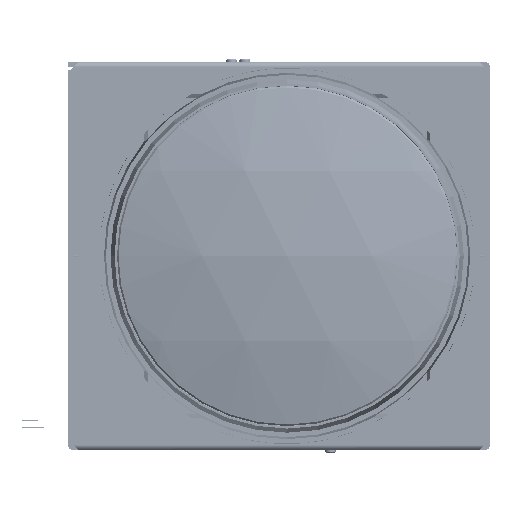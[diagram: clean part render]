
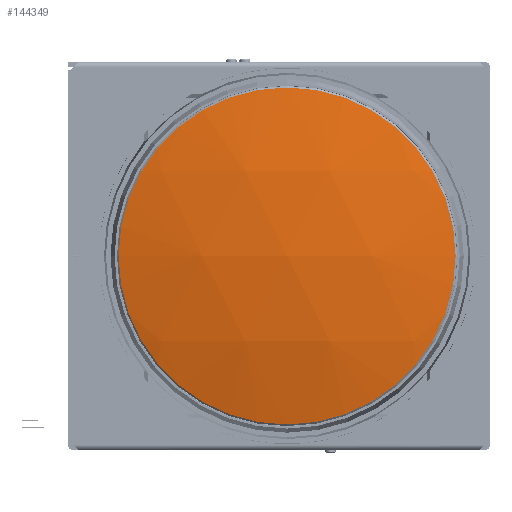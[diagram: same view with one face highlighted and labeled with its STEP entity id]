
A CAD part, left-side view. The second image highlights one B-rep face of the part: STEP entity #144349.
In plain terms, the highlighted spherical face has radius 126.28 mm.
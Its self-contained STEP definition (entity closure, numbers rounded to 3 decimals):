
#95993=CARTESIAN_POINT('',(81.34,5.295,
-0.416));
#95994=DIRECTION('',(1.,0.,0.));
#95995=DIRECTION('',(0.,-1.,0.));
#95996=AXIS2_PLACEMENT_3D('',#95993,#95994,#95995);
#95998=CARTESIAN_POINT('',(81.34,5.295,
-0.416));
#95999=DIRECTION('',(1.,0.,0.));
#96000=DIRECTION('',(0.,1.,0.));
#96001=AXIS2_PLACEMENT_3D('',#95998,#95999,#96000);
#96003=CARTESIAN_POINT('',(81.34,5.295,
-0.416));
#96004=DIRECTION('',(1.,0.,0.));
#96005=DIRECTION('',(0.,0.,1.));
#96006=AXIS2_PLACEMENT_3D('',#96003,#96004,#96005);
#134547=CARTESIAN_POINT('',(81.34,36.445,
-0.416));
#134548=VERTEX_POINT('',#134547);
#134549=CARTESIAN_POINT('',(81.34,-25.855,
-0.416));
#134550=VERTEX_POINT('',#134549);
#134551=CARTESIAN_POINT('',(81.34,5.295,
30.734));
#134552=VERTEX_POINT('',#134551);
#144339=CARTESIAN_POINT('',(203.718,5.295,
-0.416));
#144340=DIRECTION('',(0.,0.,1.));
#144341=DIRECTION('',(1.,0.,0.));
#144342=AXIS2_PLACEMENT_3D('',#144339,#144340,#144341);
#144343=SPHERICAL_SURFACE('',#144342,126.28);
#144344=ORIENTED_EDGE('',*,*,#144308,.T.);
#144345=ORIENTED_EDGE('',*,*,#144293,.T.);
#144346=ORIENTED_EDGE('',*,*,#144291,.T.);
#144347=EDGE_LOOP('',(#144344,#144345,#144346));
#144348=FACE_OUTER_BOUND('',#144347,.F.);
#95997=CIRCLE('',#95996,31.15);
#96002=CIRCLE('',#96001,31.15);
#96007=CIRCLE('',#96006,31.15);
#144291=EDGE_CURVE('',#134552,#134550,#96007,.T.);
#144293=EDGE_CURVE('',#134548,#134552,#96002,.T.);
#144308=EDGE_CURVE('',#134550,#134548,#95997,.T.);
#144349=ADVANCED_FACE('',(#144348),#144343,.T.);
